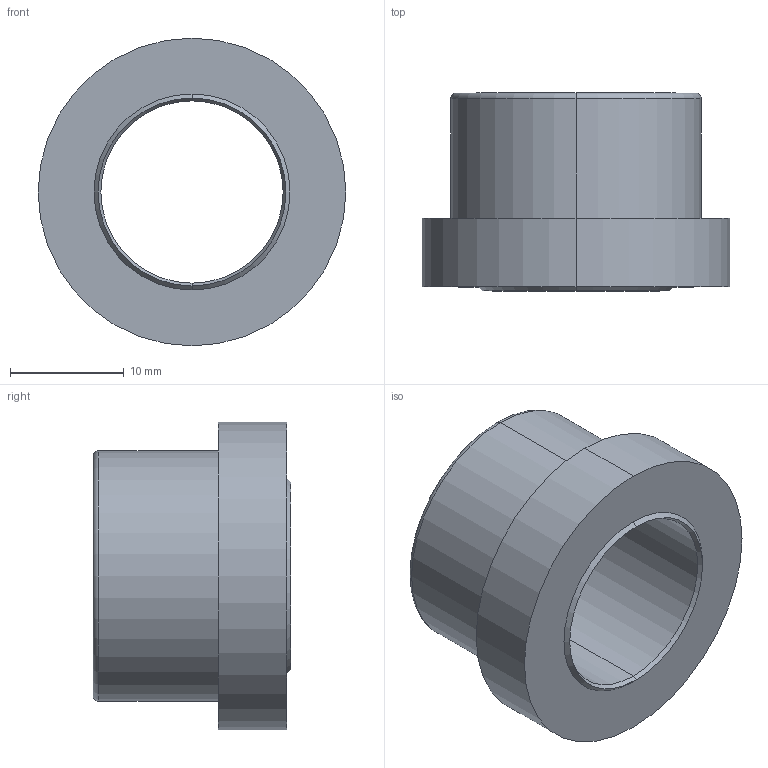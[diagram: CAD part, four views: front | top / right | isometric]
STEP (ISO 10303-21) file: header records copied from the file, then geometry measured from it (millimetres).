
FILE_DESCRIPTION (( 'STEP AP214' ), '1' );
FILE_NAME ('BR11W 16 x 17.STEP', '2020-07-16T14:09:06', ( 'August' ), ( '' ), 'SwSTEP 2.0', 'SolidWorks 2018', '' );
FILE_SCHEMA (( 'AUTOMOTIVE_DESIGN' ));
Length unit declared in the file: millimetre
Products named in the file (1): BR11W 16 x 17
Bounding box: 27 x 17.36 x 27 mm (x, y, z)
Volume: 4194.3 mm3; surface area: 2855.1 mm2
Topology: 1 solids, 1 shells, 17 faces, 34 edges, 20 vertices
Faces by surface type: cone 6, cylinder 6, plane 3, torus 2
Entity records: 484 total; most frequent: DIRECTION 92, CARTESIAN_POINT 72, ORIENTED_EDGE 68, AXIS2_PLACEMENT_3D 40, EDGE_CURVE 34, CIRCLE 22, VERTEX_POINT 20, EDGE_LOOP 20
